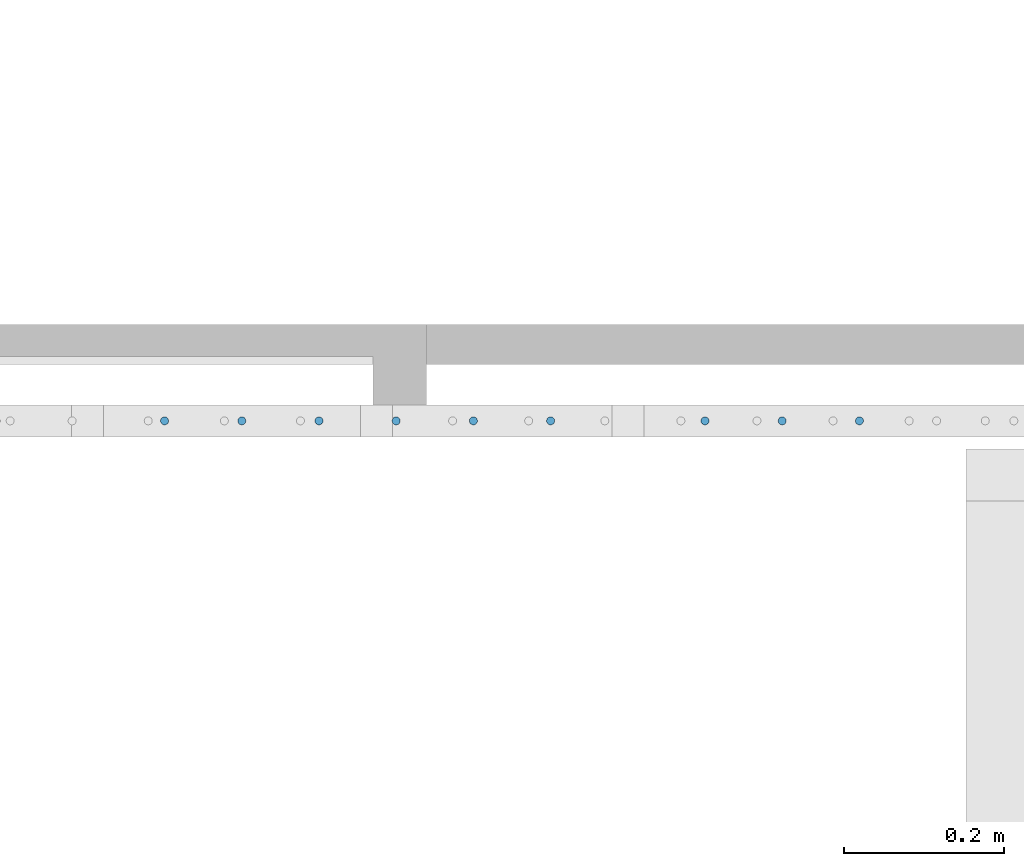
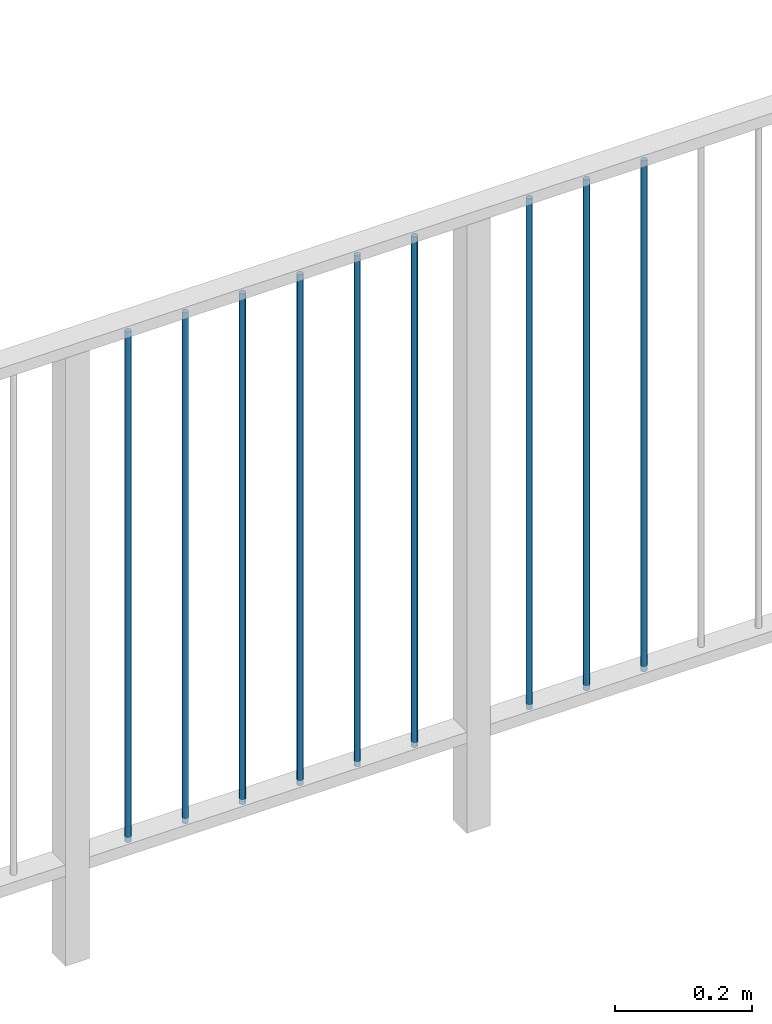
# One storey, part 28 of 135: 9 members, 1 element without a shape of its own.
"""IFC2X3 building model written with IfcOpenShell, lengths in millimetres."""

from ifc_helpers import new_model, entity, si_unit, converted_unit, derived_unit, money_unit, direction, frame, origin_with_axes, place, context, subcontext, project, spatial, faceted_brep, source, transform, mapped, material, type_object, type_shapes, element, aggregate, save


model = new_model("IFC2X3")

# Units and contexts
model_context = context("Model", 3, precision=0.01, world=origin_with_axes(), true_north=direction((0.0, 1.0)))
body_context = subcontext(model_context, "Body", "Model", "MODEL_VIEW")
ifc_project = project(units=[si_unit("LENGTHUNIT", "METRE", prefix="MILLI"), si_unit("AREAUNIT", "SQUARE_METRE"), si_unit("VOLUMEUNIT", "CUBIC_METRE"), converted_unit("PLANEANGLEUNIT", "DEGREE", entity("IfcPlaneAngleMeasure", 0.0174532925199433), si_unit("PLANEANGLEUNIT", "RADIAN"), dimensions=[0, 0, 0, 0, 0, 0, 0]), money_unit("EUR"), converted_unit("TIMEUNIT", "Year", entity("IfcTimeMeasure", 31557600.0), si_unit("TIMEUNIT", "SECOND"), dimensions=[0, 0, 1, 0, 0, 0, 0]), si_unit("MASSUNIT", "GRAM", prefix="KILO"), si_unit("THERMODYNAMICTEMPERATUREUNIT", "DEGREE_CELSIUS"), si_unit("LUMINOUSINTENSITYUNIT", "LUMEN"), si_unit("ENERGYUNIT", "JOULE", prefix="MEGA"), derived_unit("THERMALCONDUCTANCEUNIT", [(si_unit("POWERUNIT", "WATT"), 1), (si_unit("LENGTHUNIT", "METRE"), -1), (si_unit("THERMODYNAMICTEMPERATUREUNIT", "KELVIN"), -1)]), derived_unit("SPECIFICHEATCAPACITYUNIT", [(si_unit("ENERGYUNIT", "JOULE"), 1), (si_unit("MASSUNIT", "GRAM", prefix="KILO"), -1), (si_unit("THERMODYNAMICTEMPERATUREUNIT", "KELVIN"), -1)]), derived_unit("MASSDENSITYUNIT", [(si_unit("MASSUNIT", "GRAM", prefix="KILO"), 1), (si_unit("VOLUMEUNIT", "CUBIC_METRE"), -1)])], contexts=[model_context])

# Site, building, storey
site_placement = place(None, origin_with_axes())
site = spatial("IfcSite", under=ifc_project, at=site_placement, Name="Site", CompositionType="ELEMENT")
building_placement = place(site_placement, origin_with_axes())
building = spatial("IfcBuilding", under=site, at=building_placement, Name="Naam gebouw", CompositionType="ELEMENT")
storey_placement = place(building_placement, origin_with_axes())
storey = spatial("IfcBuildingStorey", under=building, at=storey_placement, Name="Begane grond N", CompositionType="ELEMENT", Elevation=0.0)

# Railing, members
railing_type = type_object("IfcRailingType", Name="Railing Type", PredefinedType="NOTDEFINED")
railing_placement = place(storey_placement, frame((56236.62159597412, 21185.9124251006, 4176.0), z_axis=(0.0, 0.0, 1.0), x_axis=(1.0, 0.0, 0.0)))
railing = element("IfcRailing", 1, at=railing_placement, inside=storey, type_object=railing_type, Name="_Reling-x", PredefinedType="NOTDEFINED")
ifc_material = material(Name="Metaal - Staal C")
member_type = type_object("IfcMemberType", Name="IfcMember", PredefinedType="MEMBER")
shared_shape = source(origin_with_axes(), body_context, "Body", "Brep", [
    faceted_brep([(0.0, -5.000000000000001, 0.0003083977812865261), (0.8682408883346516, -4.924038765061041, 0.0003037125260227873), (0.868240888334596, -4.924038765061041, 907.5003037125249), (0.0, -5.000000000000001, 907.5003083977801), (-0.868240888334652, -4.924038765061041, 0.000303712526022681), (-1.710100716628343, -4.698463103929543, 0.0002897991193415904), (-2.500000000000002, -4.330127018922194, 0.0002670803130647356), (-3.213938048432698, -3.83022221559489, 0.0002362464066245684), (-3.830222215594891, -3.213938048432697, 0.0001982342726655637), (-4.330127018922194, -2.500000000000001, 0.0001541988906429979), (-4.698463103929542, -1.710100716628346, 0.0001054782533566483), (-4.924038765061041, -0.8682408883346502, 5.355271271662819e-05), (-5.0, 0.0, 0.0), (-4.92403876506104, 0.8682408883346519, -5.355271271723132e-05), (-4.698463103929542, 1.710100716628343, -0.0001054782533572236), (-4.330127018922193, 2.500000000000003, -0.0001541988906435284), (-3.83022221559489, 3.213938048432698, -0.0001982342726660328), (-3.213938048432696, 3.830222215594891, -0.0002362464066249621), (-2.5, 4.330127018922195, -0.0002670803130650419), (-1.710100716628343, 4.698463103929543, -0.0002897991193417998), (-0.8682408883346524, 4.924038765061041, -0.0003037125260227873), (0.0, 5.000000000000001, -0.0003083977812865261), (0.8682408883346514, 4.924038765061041, -0.000303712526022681), (1.710100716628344, 4.698463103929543, -0.0002897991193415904), (2.5, 4.330127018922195, -0.0002670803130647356), (3.213938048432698, 3.83022221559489, -0.0002362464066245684), (3.83022221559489, 3.213938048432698, -0.0001982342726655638), (4.330127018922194, 2.499999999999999, -0.0001541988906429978), (4.698463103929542, 1.710100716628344, -0.0001054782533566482), (4.92403876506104, 0.8682408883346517, -5.355271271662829e-05), (5.0, 0.0, 0.0), (4.92403876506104, -0.8682408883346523, 5.355271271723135e-05), (4.698463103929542, -1.710100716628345, 0.0001054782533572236), (4.330127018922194, -2.500000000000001, 0.0001541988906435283), (3.83022221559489, -3.213938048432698, 0.0001982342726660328), (3.213938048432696, -3.830222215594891, 0.0002362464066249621), (2.5, -4.330127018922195, 0.0002670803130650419), (1.710100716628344, -4.698463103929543, 0.0002897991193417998), (1.710100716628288, -4.698463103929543, 907.5002897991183), (2.499999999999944, -4.330127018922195, 907.5002670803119), (3.213938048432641, -3.830222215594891, 907.5002362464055), (3.830222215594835, -3.213938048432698, 907.5001982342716), (4.330127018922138, -2.500000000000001, 907.5001541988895), (4.698463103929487, -1.710100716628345, 907.5001054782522), (4.924038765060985, -0.8682408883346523, 907.5000535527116), (4.999999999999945, 0.0, 907.4999999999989), (4.924038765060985, 0.8682408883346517, 907.4999464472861), (4.698463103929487, 1.710100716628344, 907.4998945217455), (4.330127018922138, 2.499999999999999, 907.4998458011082), (3.830222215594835, 3.213938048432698, 907.4998017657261), (3.213938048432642, 3.83022221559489, 907.4997637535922), (2.499999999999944, 4.330127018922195, 907.4997329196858), (1.710100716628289, 4.698463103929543, 907.4997102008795), (0.8682408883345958, 4.924038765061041, 907.4996962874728), (0.0, 5.000000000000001, 907.4996916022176), (-0.868240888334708, 4.924038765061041, 907.4996962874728), (-1.710100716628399, 4.698463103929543, 907.4997102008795), (-2.500000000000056, 4.330127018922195, 907.4997329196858), (-3.213938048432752, 3.830222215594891, 907.4997637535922), (-3.830222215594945, 3.213938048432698, 907.4998017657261), (-4.330127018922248, 2.500000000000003, 907.4998458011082), (-4.698463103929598, 1.710100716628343, 907.4998945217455), (-4.924038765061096, 0.8682408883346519, 907.4999464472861), (-5.000000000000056, 0.0, 907.4999999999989), (-4.924038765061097, -0.8682408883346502, 907.5000535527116), (-4.698463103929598, -1.710100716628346, 907.5001054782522), (-4.330127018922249, -2.500000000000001, 907.5001541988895), (-3.830222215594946, -3.213938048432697, 907.5001982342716), (-3.213938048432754, -3.83022221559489, 907.5002362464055), (-2.500000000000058, -4.330127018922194, 907.5002670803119), (-1.710100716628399, -4.698463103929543, 907.5002897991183), (-0.8682408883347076, -4.924038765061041, 907.5003037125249)], [[[0, 1, 2, 3]], [[0, 4, 5, 6, 7, 8, 9, 10, 11, 12, 13, 14, 15, 16, 17, 18, 19, 20, 21, 22, 23, 24, 25, 26, 27, 28, 29, 30, 31, 32, 33, 34, 35, 36, 37, 1]], [[1, 37, 38, 2]], [[3, 2, 38, 39, 40, 41, 42, 43, 44, 45, 46, 47, 48, 49, 50, 51, 52, 53, 54, 55, 56, 57, 58, 59, 60, 61, 62, 63, 64, 65, 66, 67, 68, 69, 70, 71]], [[4, 0, 3, 71]], [[5, 4, 71, 70]], [[6, 5, 70, 69]], [[7, 6, 69, 68]], [[8, 7, 68, 67]], [[9, 8, 67, 66]], [[10, 9, 66, 65]], [[11, 10, 65, 64]], [[12, 11, 64, 63]], [[13, 12, 63, 62]], [[14, 13, 62, 61]], [[15, 14, 61, 60]], [[16, 15, 60, 59]], [[17, 16, 59, 58]], [[18, 17, 58, 57]], [[19, 18, 57, 56]], [[20, 19, 56, 55]], [[21, 20, 55, 54]], [[22, 21, 54, 53]], [[23, 22, 53, 52]], [[24, 23, 52, 51]], [[25, 24, 51, 50]], [[26, 25, 50, 49]], [[27, 26, 49, 48]], [[28, 27, 48, 47]], [[29, 28, 47, 46]], [[30, 29, 46, 45]], [[31, 30, 45, 44]], [[32, 31, 44, 43]], [[33, 32, 43, 42]], [[34, 33, 42, 41]], [[35, 34, 41, 40]], [[36, 35, 40, 39]], [[37, 36, 39, 38]]]),
])
type_shapes(member_type, [shared_shape])
member_1_placement = place(railing_placement, frame((-244.7904269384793, 2465.000000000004, 3556.700971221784), z_axis=(0.0, 0.0, 1.0), x_axis=(1.0, 0.0, 0.0)))
member_1 = element("IfcMember", 2, at=member_1_placement, type_object=member_type, material=ifc_material, Name="_Spijlen-x", ObjectType="MEMBER", context=body_context, shape_type="MappedRepresentation", body=[
    mapped(shared_shape, transform((0.0, 0.0, 0.0), x_axis=(0.0, 1.0, 0.0), y_axis=(-1.0, 0.0, 0.0), z_axis=(0.0, 0.0, 1.0))),
])
member_2_placement = place(railing_placement, frame((-341.0862499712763, 2465.000000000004, 3556.695031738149), z_axis=(0.0, 0.0, 1.0), x_axis=(1.0, 0.0, 0.0)))
member_2 = element("IfcMember", 3, at=member_2_placement, type_object=member_type, material=ifc_material, Name="_Spijlen-x", ObjectType="MEMBER", context=body_context, shape_type="MappedRepresentation", body=[
    mapped(shared_shape, transform((0.0, 0.0, 0.0), x_axis=(0.0, 1.0, 0.0), y_axis=(-1.0, 0.0, 0.0), z_axis=(0.0, 0.0, 1.0))),
])
member_3_placement = place(railing_placement, frame((-437.3820730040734, 2465.000000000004, 3556.689092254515), z_axis=(0.0, 0.0, 1.0), x_axis=(1.0, 0.0, 0.0)))
member_3 = element("IfcMember", 4, at=member_3_placement, type_object=member_type, material=ifc_material, Name="_Spijlen-x", ObjectType="MEMBER", context=body_context, shape_type="MappedRepresentation", body=[
    mapped(shared_shape, transform((0.0, 0.0, 0.0), x_axis=(0.0, 1.0, 0.0), y_axis=(-1.0, 0.0, 0.0), z_axis=(0.0, 0.0, 1.0))),
])
member_4_placement = place(railing_placement, frame((-629.9737190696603, 2465.000000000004, 3556.677213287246), z_axis=(0.0, 0.0, 1.0), x_axis=(1.0, 0.0, 0.0)))
member_4 = element("IfcMember", 5, at=member_4_placement, type_object=member_type, material=ifc_material, Name="_Spijlen-x", ObjectType="MEMBER", context=body_context, shape_type="MappedRepresentation", body=[
    mapped(shared_shape, transform((0.0, 0.0, 0.0), x_axis=(0.0, 1.0, 0.0), y_axis=(-1.0, 0.0, 0.0), z_axis=(0.0, 0.0, 1.0))),
])
member_5_placement = place(railing_placement, frame((-726.2695421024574, 2465.000000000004, 3556.671273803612), z_axis=(0.0, 0.0, 1.0), x_axis=(1.0, 0.0, 0.0)))
member_5 = element("IfcMember", 6, at=member_5_placement, type_object=member_type, material=ifc_material, Name="_Spijlen-x", ObjectType="MEMBER", context=body_context, shape_type="MappedRepresentation", body=[
    mapped(shared_shape, transform((0.0, 0.0, 0.0), x_axis=(0.0, 1.0, 0.0), y_axis=(-1.0, 0.0, 0.0), z_axis=(0.0, 0.0, 1.0))),
])
member_6_placement = place(railing_placement, frame((-822.5653651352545, 2465.000000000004, 3556.665334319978), z_axis=(0.0, 0.0, 1.0), x_axis=(1.0, 0.0, 0.0)))
member_6 = element("IfcMember", 7, at=member_6_placement, type_object=member_type, material=ifc_material, Name="_Spijlen-x", ObjectType="MEMBER", context=body_context, shape_type="MappedRepresentation", body=[
    mapped(shared_shape, transform((0.0, 0.0, 0.0), x_axis=(0.0, 1.0, 0.0), y_axis=(-1.0, 0.0, 0.0), z_axis=(0.0, 0.0, 1.0))),
])
member_7_placement = place(railing_placement, frame((-918.8611881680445, 2465.000000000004, 3556.659394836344), z_axis=(0.0, 0.0, 1.0), x_axis=(1.0, 0.0, 0.0)))
member_7 = element("IfcMember", 8, at=member_7_placement, type_object=member_type, material=ifc_material, Name="_Spijlen-x", ObjectType="MEMBER", context=body_context, shape_type="MappedRepresentation", body=[
    mapped(shared_shape, transform((0.0, 0.0, 0.0), x_axis=(0.0, 1.0, 0.0), y_axis=(-1.0, 0.0, 0.0), z_axis=(0.0, 0.0, 1.0))),
])
member_8_placement = place(railing_placement, frame((-1015.157011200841, 2465.000000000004, 3556.653455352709), z_axis=(0.0, 0.0, 1.0), x_axis=(1.0, 0.0, 0.0)))
member_8 = element("IfcMember", 9, at=member_8_placement, type_object=member_type, material=ifc_material, Name="_Spijlen-x", ObjectType="MEMBER", context=body_context, shape_type="MappedRepresentation", body=[
    mapped(shared_shape, transform((0.0, 0.0, 0.0), x_axis=(0.0, 1.0, 0.0), y_axis=(-1.0, 0.0, 0.0), z_axis=(0.0, 0.0, 1.0))),
])
member_9_placement = place(railing_placement, frame((-1111.452834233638, 2465.000000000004, 3556.647515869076), z_axis=(0.0, 0.0, 1.0), x_axis=(1.0, 0.0, 0.0)))
member_9 = element("IfcMember", 10, at=member_9_placement, type_object=member_type, material=ifc_material, Name="_Spijlen-x", ObjectType="MEMBER", context=body_context, shape_type="MappedRepresentation", body=[
    mapped(shared_shape, transform((0.0, 0.0, 0.0), x_axis=(0.0, 1.0, 0.0), y_axis=(-1.0, 0.0, 0.0), z_axis=(0.0, 0.0, 1.0))),
])
aggregate(railing, [member_1, member_2, member_3, member_4, member_5, member_6, member_7, member_8, member_9])

save(model, "model.ifc")
